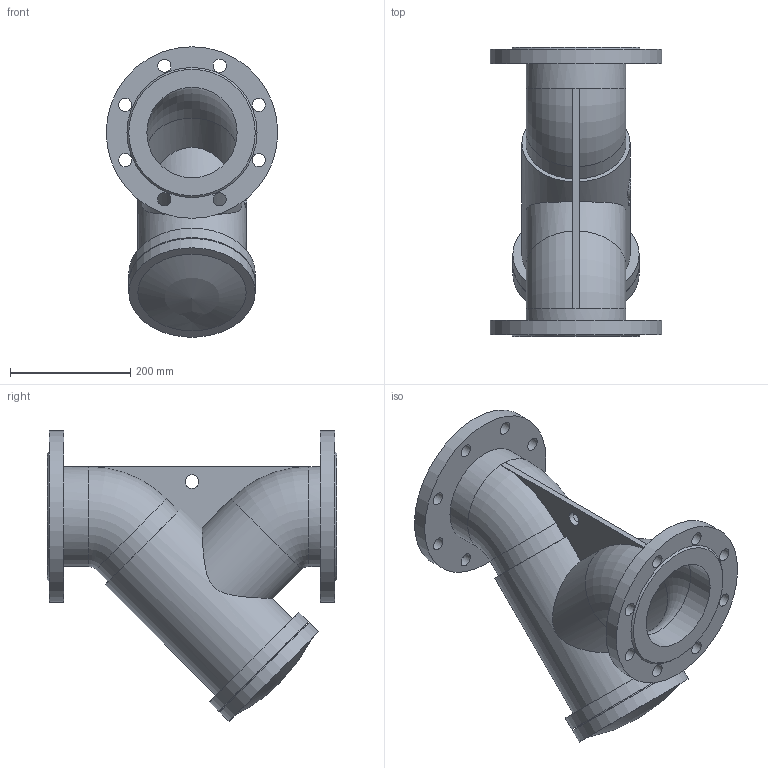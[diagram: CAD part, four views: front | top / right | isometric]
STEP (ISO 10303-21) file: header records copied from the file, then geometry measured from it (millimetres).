
FILE_DESCRIPTION(('STEP AP203'), '1');
FILE_NAME('Ôèëüòð ñåò÷àòûé ôëàíöåâûé 021Y.Z DN150 PN10_PN16', '', ('UNSPECIFIED'), ('UNSPECIFIED'), 'ASCON STEP Converter 1.6', 'ASCON Math Kernel', '');
FILE_SCHEMA(('CONFIG_CONTROL_DESIGN'));
Length unit declared in the file: millimetre
Bounding box: 285 x 480 x 482.5 mm (x, y, z)
Volume: 12025989.8 mm3; surface area: 865549.4 mm2
Topology: 1 solids, 1 shells, 75 faces, 171 edges, 110 vertices
Faces by surface type: cylinder 39, plane 29, torus 4, cone 2, sphere 1
Full cylindrical faces by diameter (mm): 22 x16, 23 x1, 150 x4, 166 x2, 180 x1, 198 x1, 210 x2, 285 x2
Entity records: 3713 total; most frequent: CARTESIAN_POINT 1396, DIRECTION 361, ORIENTED_EDGE 272, AXIS2_PLACEMENT_3D 160, EDGE_LOOP 155, EDGE_CURVE 136, VERTEX_POINT 109, FACE_BOUND 91
